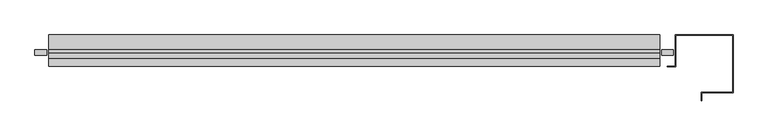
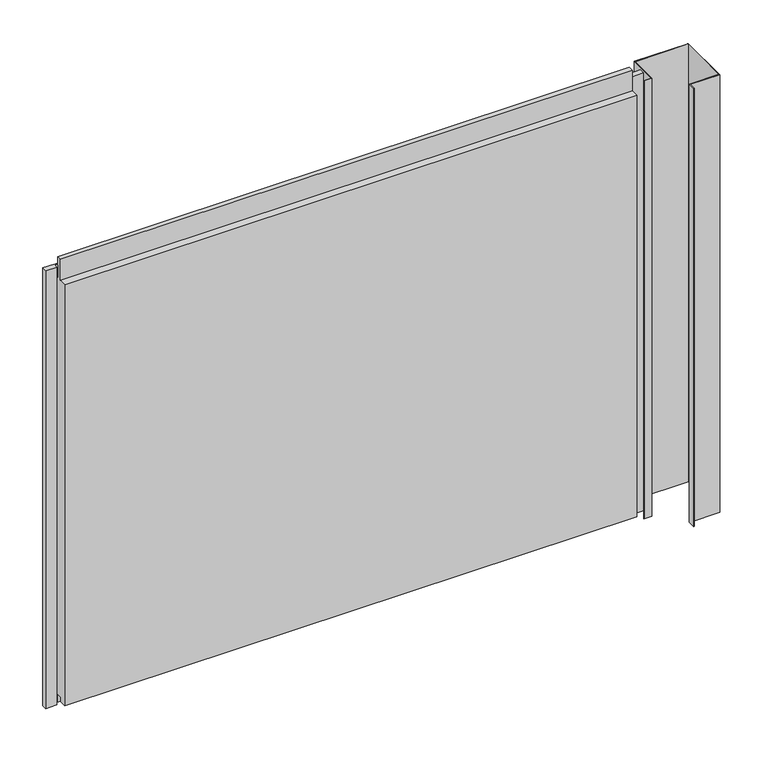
"""IFC4 building model written with IfcOpenShell, lengths in millimetres: plate geometry, Trimo_Qbiss Screen_Normal Panel-HORIZONTAL : HR - B."""

from ifc_helpers import new_model, si_unit, frame, origin, place, context, project, spatial, polyline, outline, extrude, source, transform, mapped, element, save


def plate_53742d8a(model_context):
    return source(origin(), model_context, "Body", "SweptSolid", [
        extrude(outline(polyline([(-469.25, 121.5978162), (-469.25, 112.8978162), (-488.25, 112.8978162), (-488.25, 121.5978162), (-469.25, 121.5978162)])), frame((0.0, 0.0, -1.0), z_axis=(0.0, 0.0, 1.0), x_axis=(1.0, 0.0, 0.0)), (0.0, 0.0, 1.0), 787.95),
        extrude(outline(polyline([(509.75, 112.8978162), (509.75, 121.5978162), (528.75, 121.5978162), (528.75, 112.8978162), (509.75, 112.8978162)])), frame((0.0, 0.0, -1.0), z_axis=(0.0, 0.0, 1.0), x_axis=(1.0, 0.0, 0.0)), (0.0, 0.0, 1.0), 787.95),
        extrude(outline(polyline([(506.75, 121.0), (506.75, 116.0), (-466.25, 116.0), (-466.25, 121.0), (506.75, 121.0)])), frame((0.0, 0.0, 765.95), z_axis=(0.0, 0.0, 1.0), x_axis=(1.0, 0.0, 0.0)), (0.0, 0.0, 1.0), 21.0),
        extrude(outline(polyline([(116.0, 764.95), (145.0, 764.95), (145.0, 0.0), (117.0, 0.0), (117.0, 15.5), (107.0, 15.5), (107.0, 7.0), (95.0, 7.0), (95.0, 764.95), (108.0, 764.95), (108.0, 802.45), (116.0, 802.45), (116.0, 764.95)])), frame((-466.25, 0.0, 0.0), z_axis=(1.0, 0.0, 0.0), x_axis=(0.0, 1.0, 0.0)), (0.0, 0.0, 1.0), 973.0),
        extrude(outline(polyline([(531.75, 95.0), (531.75, 145.0), (623.75, 145.0), (623.75, 53.0), (573.75, 53.0), (573.75, 40.5), (572.95, 40.5), (572.95, 53.8), (622.95, 53.8), (622.95, 144.2), (532.55, 144.2), (532.55, 94.1823429), (519.25, 94.1823429), (519.25, 95.0), (531.75, 95.0)])), frame((0.0, 0.0, -1.0), z_axis=(0.0, 0.0, 1.0), x_axis=(1.0, 0.0, 0.0)), (0.0, 0.0, 1.0), 787.95),
    ])


if __name__ == "__main__":
    model = new_model("IFC4")
    model_context = context("Model", 3, world=origin())
    ifc_project = project(units=[si_unit("LENGTHUNIT", "METRE", prefix="MILLI")], contexts=[model_context])
    site = spatial("IfcSite", under=ifc_project)
    building = spatial("IfcBuilding", under=site)
    placement = place(None, origin())
    plate_shape = plate_53742d8a(model_context)
    element("IfcPlate", 1, ObjectType="Trimo_Qbiss Screen_Normal Panel-HORIZONTAL : HR - B", at=placement, inside=building, context=model_context, shape_type="MappedRepresentation", body=[
        mapped(plate_shape, transform((0.0, 0.0, 0.0), x_axis=(1.0, 0.0, 0.0), y_axis=(0.0, 1.0, 0.0), z_axis=(0.0, 0.0, 1.0))),
    ])
    save(model, "model.ifc")
